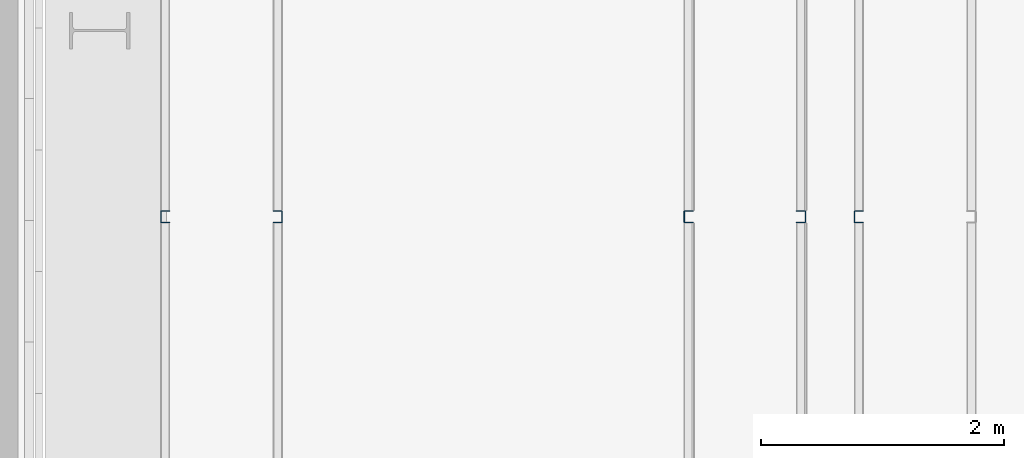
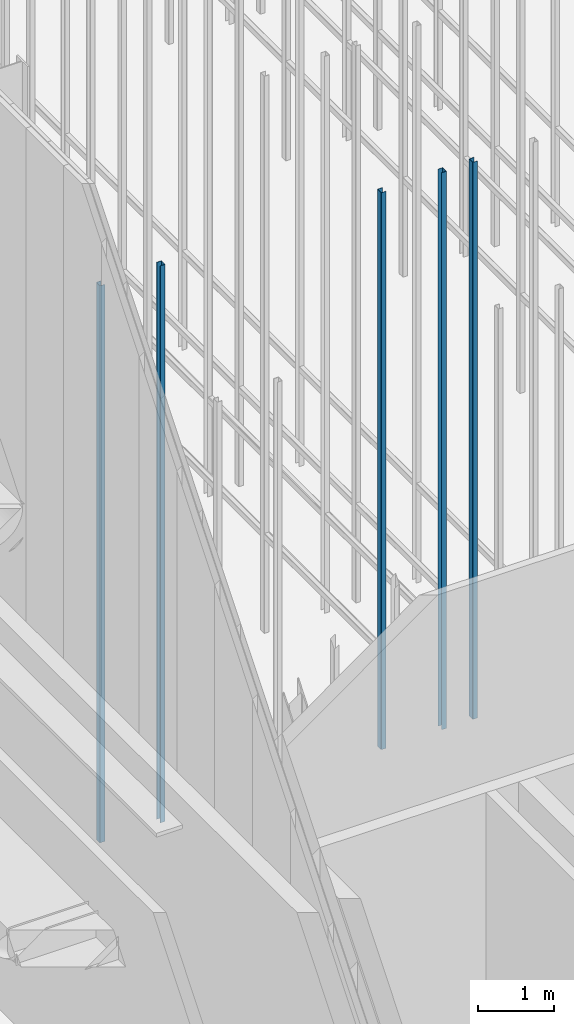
# One storey, part 7 of 302: 5 columns.
"""IFC2X3 building model written with IfcOpenShell, lengths in metres."""

from ifc_helpers import new_model, entity, si_unit, converted_unit, derived_unit, direction, frame, frame_2d, origin, place, context, subcontext, project, spatial, polyline, circle_curve, parameter, trimmed, segment, composite_curve, outline, extrude, source, transform, mapped, material, type_object, type_shapes, element, save


model = new_model("IFC2X3")

# Units and contexts
model_context = context("Model", 3, precision=1e-05, world=origin(), true_north=direction((6.12303176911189e-17, 1.0)))
body_context = subcontext(model_context, "Body", "Model", "MODEL_VIEW")
ifc_project = project(units=[si_unit("LENGTHUNIT", "METRE"), si_unit("AREAUNIT", "SQUARE_METRE"), si_unit("VOLUMEUNIT", "CUBIC_METRE"), converted_unit("PLANEANGLEUNIT", "DEGREE", entity("IfcRatioMeasure", 0.0174532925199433), si_unit("PLANEANGLEUNIT", "RADIAN"), dimensions=[0, 0, 0, 0, 0, 0, 0]), si_unit("MASSUNIT", "GRAM", prefix="KILO"), derived_unit("MASSDENSITYUNIT", [(si_unit("MASSUNIT", "GRAM", prefix="KILO"), 1), (si_unit("LENGTHUNIT", "METRE"), -3)]), derived_unit("MOMENTOFINERTIAUNIT", [(si_unit("LENGTHUNIT", "METRE"), 4)]), si_unit("TIMEUNIT", "SECOND"), si_unit("FREQUENCYUNIT", "HERTZ"), si_unit("THERMODYNAMICTEMPERATUREUNIT", "DEGREE_CELSIUS"), derived_unit("THERMALTRANSMITTANCEUNIT", [(si_unit("MASSUNIT", "GRAM", prefix="KILO"), 1), (si_unit("THERMODYNAMICTEMPERATUREUNIT", "KELVIN"), -1), (si_unit("TIMEUNIT", "SECOND"), -3)]), derived_unit("VOLUMETRICFLOWRATEUNIT", [(si_unit("LENGTHUNIT", "METRE"), 3), (si_unit("TIMEUNIT", "SECOND"), -1)]), si_unit("ELECTRICCURRENTUNIT", "AMPERE"), si_unit("ELECTRICVOLTAGEUNIT", "VOLT"), si_unit("POWERUNIT", "WATT"), si_unit("FORCEUNIT", "NEWTON", prefix="KILO"), si_unit("ILLUMINANCEUNIT", "LUX"), si_unit("LUMINOUSFLUXUNIT", "LUMEN"), si_unit("LUMINOUSINTENSITYUNIT", "CANDELA"), derived_unit("USERDEFINED", [(si_unit("MASSUNIT", "GRAM", prefix="KILO"), -1), (si_unit("LENGTHUNIT", "METRE"), -2), (si_unit("TIMEUNIT", "SECOND"), 3), (si_unit("LUMINOUSFLUXUNIT", "LUMEN"), 1)]), derived_unit("LINEARVELOCITYUNIT", [(si_unit("LENGTHUNIT", "METRE"), 1), (si_unit("TIMEUNIT", "SECOND"), -1)]), si_unit("PRESSUREUNIT", "PASCAL"), derived_unit("USERDEFINED", [(si_unit("LENGTHUNIT", "METRE"), -2), (si_unit("MASSUNIT", "GRAM", prefix="KILO"), 1), (si_unit("TIMEUNIT", "SECOND"), -2)]), derived_unit("LINEARFORCEUNIT", [(si_unit("MASSUNIT", "GRAM", prefix="KILO"), 1), (si_unit("LENGTHUNIT", "METRE"), 1), (si_unit("TIMEUNIT", "SECOND"), -2), (si_unit("LENGTHUNIT", "METRE"), -1)]), derived_unit("PLANARFORCEUNIT", [(si_unit("MASSUNIT", "GRAM", prefix="KILO"), 1), (si_unit("LENGTHUNIT", "METRE"), 1), (si_unit("TIMEUNIT", "SECOND"), -2), (si_unit("LENGTHUNIT", "METRE"), -2)])], contexts=[model_context])

# Site, building, storey
site_placement = place(None, origin())
site = spatial("IfcSite", under=ifc_project, at=site_placement, Name="Default", CompositionType="ELEMENT")
building_placement = place(site_placement, origin())
building = spatial("IfcBuilding", under=site, at=building_placement, CompositionType="ELEMENT")
storey_placement = place(building_placement, frame((0.0, 0.0, -1.3)))
storey = spatial("IfcBuildingStorey", under=building, at=storey_placement, Name="00_EG", CompositionType="ELEMENT", Elevation=-1.3)

# Columns
ifc_material = material(Name="Metall - Baustahl S235")
column_type_1 = type_object("IfcColumnType", Name="Leichter Stahl Schlossschrauben Stütze:C 100", PredefinedType="COLUMN", material=ifc_material)
shared_shape_1 = source(origin(), body_context, "Body", "SweptSolid", [
    extrude(outline(composite_curve([segment(polyline([(-0.0469749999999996, -0.0499999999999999), (0.0214500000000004, -0.0499999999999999)]), True, "CONTINUOUS"), segment(trimmed(circle_curve(frame_2d((0.0214500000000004, -0.0434249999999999), x_axis=(0.0, -1.0)), 0.00657500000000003), [parameter(0.0)], [parameter(89.9999999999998)], True, "PARAMETER"), True, "CONTINUOUS"), segment(polyline([(0.0280250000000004, -0.0434249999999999), (0.0280250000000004, 0.0434250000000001)]), True, "CONTINUOUS"), segment(trimmed(circle_curve(frame_2d((0.0214500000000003, 0.0434250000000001), x_axis=(1.0, 0.0)), 0.0065750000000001), [parameter(0.0)], [parameter(89.9999999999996)], True, "PARAMETER"), True, "CONTINUOUS"), segment(polyline([(0.0214500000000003, 0.0500000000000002), (-0.0469750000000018, 0.0500000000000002)]), True, "CONTINUOUS"), segment(polyline([(-0.0469750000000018, 0.0500000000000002), (-0.0469750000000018, 0.0450000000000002)]), True, "CONTINUOUS"), segment(polyline([(-0.0469750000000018, 0.0450000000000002), (0.0214500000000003, 0.0450000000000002)]), True, "CONTINUOUS"), segment(trimmed(circle_curve(frame_2d((0.0214500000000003, 0.0434249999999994), x_axis=(0.0, 1.0)), 0.00157500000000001), [parameter(269.999999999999)], [parameter(0.0)], True, "PARAMETER"), False, "CONTINUOUS"), segment(polyline([(0.0230250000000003, 0.0434249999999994), (0.0230250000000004, -0.0434249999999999)]), True, "CONTINUOUS"), segment(trimmed(circle_curve(frame_2d((0.0214500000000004, -0.0434249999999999), x_axis=(1.0, 0.0)), 0.00157500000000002), [parameter(270.0)], [parameter(0.0)], True, "PARAMETER"), False, "CONTINUOUS"), segment(polyline([(0.0214500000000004, -0.0449999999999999), (-0.0469749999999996, -0.0449999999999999)]), True, "CONTINUOUS"), segment(polyline([(-0.0469749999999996, -0.0449999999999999), (-0.0469749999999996, -0.0499999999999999)]), True, "CONTINUOUS")], self_intersect=False)), frame((0.0499999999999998, 0.0280250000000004, -0.0300000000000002), z_axis=(0.0, 0.0, 1.0), x_axis=(0.0, -1.0, 0.0)), (0.0, 0.0, 1.0), 9.0),
])
type_shapes(column_type_1, [shared_shape_1])
for number, where, z_axis, x_axis in (
    (1, (-200.790111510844, 30.248088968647, 1.3), (0.0, 0.0, 1.0), (0.0, -1.0, 0.0)),
    (2, (-202.190111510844, 30.248088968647, 1.3), (0.0, 0.0, 1.0), (0.0, -1.0, 0.0)),
    (3, (-206.490111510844, 30.2480889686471, 1.3), (0.0, 0.0, 1.0), (0.0, -1.0, 0.0)),
):
    element("IfcColumn", number, at=place(storey_placement, frame(where, z_axis=z_axis, x_axis=x_axis)), inside=storey, type_object=column_type_1, material=ifc_material, Name="Leichter Stahl Schlossschrauben Stütze:C 100", ObjectType="Leichter Stahl Schlossschrauben Stütze:C 100", context=body_context, shape_type="MappedRepresentation", body=[
        mapped(shared_shape_1, transform((0.0, 0.0, 0.0), scale=1.0)),
    ])
column_type_2 = type_object("IfcColumnType", Name="Leichter Stahl Schlossschrauben Stütze:C 100", PredefinedType="COLUMN", material=ifc_material)
shared_shape_2 = source(origin(), body_context, "Body", "SweptSolid", [
    extrude(outline(composite_curve([segment(polyline([(-0.0214500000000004, -0.0499999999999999), (0.0469749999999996, -0.0499999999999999)]), True, "CONTINUOUS"), segment(polyline([(0.0469749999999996, -0.0499999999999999), (0.0469749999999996, -0.0449999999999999)]), True, "CONTINUOUS"), segment(polyline([(0.0469749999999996, -0.0449999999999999), (-0.0214500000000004, -0.045)]), True, "CONTINUOUS"), segment(trimmed(circle_curve(frame_2d((-0.0214500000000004, -0.043425), x_axis=(0.0, -1.0)), 0.00157500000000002), [parameter(270.0)], [parameter(0.0)], True, "PARAMETER"), False, "CONTINUOUS"), segment(polyline([(-0.0230250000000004, -0.0434249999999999), (-0.0230250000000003, 0.0434249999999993)]), True, "CONTINUOUS"), segment(trimmed(circle_curve(frame_2d((-0.0214500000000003, 0.0434249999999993), x_axis=(-1.0, 0.0)), 0.00157500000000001), [parameter(269.999999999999)], [parameter(0.0)], True, "PARAMETER"), False, "CONTINUOUS"), segment(polyline([(-0.0214500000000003, 0.0450000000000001), (0.0469750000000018, 0.0450000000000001)]), True, "CONTINUOUS"), segment(polyline([(0.0469750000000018, 0.0450000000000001), (0.0469750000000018, 0.0500000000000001)]), True, "CONTINUOUS"), segment(polyline([(0.0469750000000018, 0.0500000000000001), (-0.0214500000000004, 0.0500000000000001)]), True, "CONTINUOUS"), segment(trimmed(circle_curve(frame_2d((-0.0214500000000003, 0.043425), x_axis=(0.0, 1.0)), 0.0065750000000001), [parameter(0.0)], [parameter(89.9999999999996)], True, "PARAMETER"), True, "CONTINUOUS"), segment(polyline([(-0.0280250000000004, 0.043425), (-0.0280250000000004, -0.043425)]), True, "CONTINUOUS"), segment(trimmed(circle_curve(frame_2d((-0.0214500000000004, -0.0434249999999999), x_axis=(-1.0, 0.0)), 0.00657500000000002), [parameter(0.0)], [parameter(89.9999999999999)], True, "PARAMETER"), True, "CONTINUOUS")], self_intersect=False)), frame((0.0499999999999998, -0.0280250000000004, -0.0300000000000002), z_axis=(0.0, 0.0, 1.0), x_axis=(0.0, -1.0, 0.0)), (0.0, 0.0, 1.0), 9.0),
])
type_shapes(column_type_2, [shared_shape_2])
for number, where, z_axis, x_axis in (
    (4, (-201.190111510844, 30.248088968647, 1.3), (0.0, 0.0, 1.0), (0.0, -1.0, 0.0)),
    (5, (-205.490111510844, 30.2480889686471, 1.3), (0.0, 0.0, 1.0), (0.0, -1.0, 0.0)),
):
    element("IfcColumn", number, at=place(storey_placement, frame(where, z_axis=z_axis, x_axis=x_axis)), inside=storey, type_object=column_type_2, material=ifc_material, Name="Leichter Stahl Schlossschrauben Stütze:C 100", ObjectType="Leichter Stahl Schlossschrauben Stütze:C 100", context=body_context, shape_type="MappedRepresentation", body=[
        mapped(shared_shape_2, transform((0.0, 0.0, 0.0), scale=1.0)),
    ])

save(model, "model.ifc")
